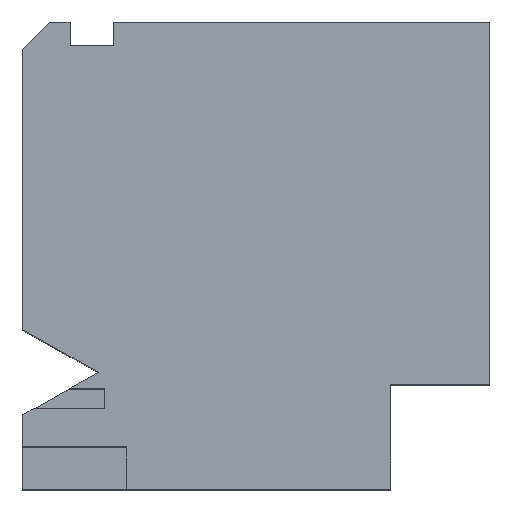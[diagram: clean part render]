
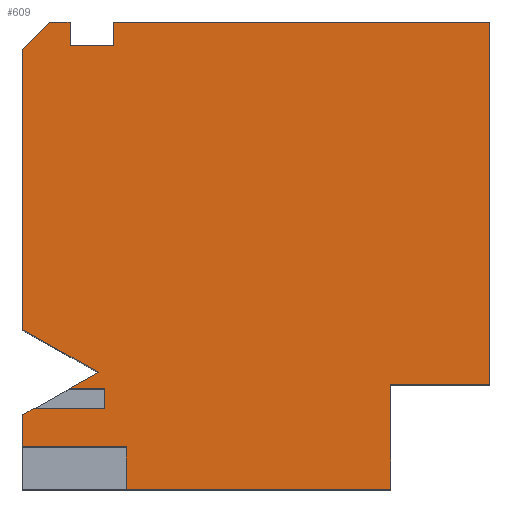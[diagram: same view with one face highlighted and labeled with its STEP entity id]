
A CAD part, top view. The second image highlights one B-rep face of the part: STEP entity #609.
In plain terms, the highlighted planar face has unit normal (0, 0, 1).
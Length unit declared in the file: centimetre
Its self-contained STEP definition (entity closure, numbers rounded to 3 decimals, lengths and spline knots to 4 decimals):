
#1 = EDGE_CURVE ( 'NONE', #614, #55, #923, .T. ) ;
#3 = DIRECTION ( 'NONE',  ( 0., 1., 0. ) ) ;
#9 = EDGE_CURVE ( 'NONE', #55, #213, #548, .T. ) ;
#12 = VECTOR ( 'NONE', #194, 100. ) ;
#15 = VECTOR ( 'NONE', #170, 100. ) ;
#30 = ORIENTED_EDGE ( 'NONE', *, *, #188, .F. ) ;
#37 = CARTESIAN_POINT ( 'NONE',  ( 99.8926, 215.2082, 1000. ) ) ;
#43 = DIRECTION ( 'NONE',  ( -1., 0., 0. ) ) ;
#52 = DIRECTION ( 'NONE',  ( -1., 0., 0. ) ) ;
#55 = VERTEX_POINT ( 'NONE', #645 ) ;
#68 = VERTEX_POINT ( 'NONE', #500 ) ;
#69 = ORIENTED_EDGE ( 'NONE', *, *, #750, .F. ) ;
#70 = CARTESIAN_POINT ( 'NONE',  ( 0., 172.1387, 1000. ) ) ;
#73 = VERTEX_POINT ( 'NONE', #810 ) ;
#75 = VECTOR ( 'NONE', #933, 100. ) ;
#77 = CARTESIAN_POINT ( 'NONE',  ( 788.0103, 224.0771, 1000. ) ) ;
#84 = DIRECTION ( 'NONE',  ( 1., 0., 0. ) ) ;
#85 = CARTESIAN_POINT ( 'NONE',  ( 0., 341.7609, 1000. ) ) ;
#89 = DIRECTION ( 'NONE',  ( 1., 0., 0. ) ) ;
#96 = EDGE_CURVE ( 'NONE', #714, #68, #576, .T. ) ;
#117 = DIRECTION ( 'NONE',  ( 0.872, 0.49, 0. ) ) ;
#122 = CARTESIAN_POINT ( 'NONE',  ( 788.0103, 0., 1000. ) ) ;
#136 = CARTESIAN_POINT ( 'NONE',  ( 176.0399, 172.1387, 1000. ) ) ;
#137 = ORIENTED_EDGE ( 'NONE', *, *, #939, .T. ) ;
#144 = VERTEX_POINT ( 'NONE', #122 ) ;
#151 = VERTEX_POINT ( 'NONE', #77 ) ;
#157 = VECTOR ( 'NONE', #980, 100. ) ;
#158 = ORIENTED_EDGE ( 'NONE', *, *, #263, .F. ) ;
#166 = CARTESIAN_POINT ( 'NONE',  ( 101.937, 950.76, 1000. ) ) ;
#167 = VECTOR ( 'NONE', #117, 100. ) ;
#170 = DIRECTION ( 'NONE',  ( 0.872, 0.49, 0. ) ) ;
#188 = EDGE_CURVE ( 'NONE', #73, #836, #916, .T. ) ;
#194 = DIRECTION ( 'NONE',  ( 0., -1., 0. ) ) ;
#196 = VECTOR ( 'NONE', #206, 100. ) ;
#206 = DIRECTION ( 'NONE',  ( -0.872, 0.49, 0. ) ) ;
#207 = CARTESIAN_POINT ( 'NONE',  ( 194.1209, 950.76, 1000. ) ) ;
#213 = VERTEX_POINT ( 'NONE', #459 ) ;
#225 = VERTEX_POINT ( 'NONE', #446 ) ;
#226 = VERTEX_POINT ( 'NONE', #317 ) ;
#233 = VECTOR ( 'NONE', #248, 100. ) ;
#234 = LINE ( 'NONE', #334, #75 ) ;
#241 = CARTESIAN_POINT ( 'NONE',  ( 222.7373, 0., 1000. ) ) ;
#242 = LINE ( 'NONE', #862, #15 ) ;
#248 = DIRECTION ( 'NONE',  ( -1., 0., 0. ) ) ;
#263 = EDGE_CURVE ( 'NONE', #572, #861, #533, .T. ) ;
#264 = VERTEX_POINT ( 'NONE', #840 ) ;
#267 = CARTESIAN_POINT ( 'NONE',  ( 222.7373, 0., 1000. ) ) ;
#279 = LINE ( 'NONE', #876, #551 ) ;
#283 = EDGE_CURVE ( 'NONE', #323, #226, #611, .T. ) ;
#290 = CARTESIAN_POINT ( 'NONE',  ( 162.4883, 250.4024, 1000. ) ) ;
#303 = VECTOR ( 'NONE', #454, 100. ) ;
#309 = VERTEX_POINT ( 'NONE', #85 ) ;
#310 = EDGE_CURVE ( 'NONE', #766, #264, #242, .T. ) ;
#317 = CARTESIAN_POINT ( 'NONE',  ( 0., 941.4145, 1000. ) ) ;
#318 = EDGE_CURVE ( 'NONE', #861, #489, #412, .T. ) ;
#323 = VERTEX_POINT ( 'NONE', #337 ) ;
#326 = VERTEX_POINT ( 'NONE', #782 ) ;
#327 = EDGE_CURVE ( 'NONE', #614, #144, #775, .T. ) ;
#334 = CARTESIAN_POINT ( 'NONE',  ( 0., 1000., 1000. ) ) ;
#337 = CARTESIAN_POINT ( 'NONE',  ( 58.5855, 1000., 1000. ) ) ;
#341 = CARTESIAN_POINT ( 'NONE',  ( 101.937, 1000., 1000. ) ) ;
#352 = LINE ( 'NONE', #657, #630 ) ;
#362 = DIRECTION ( 'NONE',  ( 0., 1., 0. ) ) ;
#366 = CARTESIAN_POINT ( 'NONE',  ( 176.0399, 215.2082, 1000. ) ) ;
#373 = ORIENTED_EDGE ( 'NONE', *, *, #9, .F. ) ;
#385 = ORIENTED_EDGE ( 'NONE', *, *, #283, .T. ) ;
#412 = LINE ( 'NONE', #166, #569 ) ;
#416 = ORIENTED_EDGE ( 'NONE', *, *, #310, .F. ) ;
#422 = CARTESIAN_POINT ( 'NONE',  ( 0., 1000., 1000. ) ) ;
#431 = VECTOR ( 'NONE', #925, 100. ) ;
#437 = LINE ( 'NONE', #733, #431 ) ;
#446 = CARTESIAN_POINT ( 'NONE',  ( 1000., 224.0771, 1000. ) ) ;
#454 = DIRECTION ( 'NONE',  ( -0.707, -0.707, 0. ) ) ;
#459 = CARTESIAN_POINT ( 'NONE',  ( 0., 90.4326, 1000. ) ) ;
#476 = AXIS2_PLACEMENT_3D ( 'NONE', #808, #948, #791 ) ;
#479 = VECTOR ( 'NONE', #3, 100. ) ;
#482 = DIRECTION ( 'NONE',  ( 0., 1., 0. ) ) ;
#485 = EDGE_CURVE ( 'NONE', #151, #144, #279, .T. ) ;
#489 = VERTEX_POINT ( 'NONE', #207 ) ;
#494 = CARTESIAN_POINT ( 'NONE',  ( 0., 159.044, 1000. ) ) ;
#495 = DIRECTION ( 'NONE',  ( 0., -1., 0. ) ) ;
#500 = CARTESIAN_POINT ( 'NONE',  ( 194.1209, 1000., 1000. ) ) ;
#501 = LINE ( 'NONE', #494, #167 ) ;
#503 = CARTESIAN_POINT ( 'NONE',  ( 0., 159.044, 1000. ) ) ;
#520 = ORIENTED_EDGE ( 'NONE', *, *, #96, .T. ) ;
#521 = EDGE_CURVE ( 'NONE', #225, #714, #437, .T. ) ;
#532 = LINE ( 'NONE', #70, #707 ) ;
#533 = LINE ( 'NONE', #898, #157 ) ;
#543 = VECTOR ( 'NONE', #839, 100. ) ;
#548 = LINE ( 'NONE', #625, #233 ) ;
#551 = VECTOR ( 'NONE', #495, 100. ) ;
#559 = EDGE_CURVE ( 'NONE', #572, #323, #234, .T. ) ;
#565 = VECTOR ( 'NONE', #43, 100. ) ;
#569 = VECTOR ( 'NONE', #929, 100. ) ;
#572 = VERTEX_POINT ( 'NONE', #341 ) ;
#576 = LINE ( 'NONE', #957, #666 ) ;
#577 = CARTESIAN_POINT ( 'NONE',  ( 1000., 1000., 1000. ) ) ;
#589 = LINE ( 'NONE', #422, #12 ) ;
#590 = DIRECTION ( 'NONE',  ( -1., 0., 0. ) ) ;
#595 = ORIENTED_EDGE ( 'NONE', *, *, #327, .T. ) ;
#602 = ORIENTED_EDGE ( 'NONE', *, *, #784, .F. ) ;
#605 = CARTESIAN_POINT ( 'NONE',  ( 0., 1000., 1000. ) ) ;
#607 = VERTEX_POINT ( 'NONE', #503 ) ;
#608 = ORIENTED_EDGE ( 'NONE', *, *, #864, .F. ) ;
#609 = ADVANCED_FACE ( 'NONE', ( #718 ), #877, .T. ) ;
#611 = LINE ( 'NONE', #845, #303 ) ;
#614 = VERTEX_POINT ( 'NONE', #267 ) ;
#618 = ORIENTED_EDGE ( 'NONE', *, *, #485, .F. ) ;
#625 = CARTESIAN_POINT ( 'NONE',  ( 0., 90.4326, 1000. ) ) ;
#626 = EDGE_CURVE ( 'NONE', #836, #766, #644, .T. ) ;
#630 = VECTOR ( 'NONE', #362, 100. ) ;
#644 = LINE ( 'NONE', #936, #565 ) ;
#645 = CARTESIAN_POINT ( 'NONE',  ( 222.7373, 90.4326, 1000. ) ) ;
#649 = ORIENTED_EDGE ( 'NONE', *, *, #521, .T. ) ;
#657 = CARTESIAN_POINT ( 'NONE',  ( 194.1209, 950.76, 1000. ) ) ;
#661 = EDGE_CURVE ( 'NONE', #225, #151, #735, .T. ) ;
#666 = VECTOR ( 'NONE', #590, 100. ) ;
#707 = VECTOR ( 'NONE', #84, 100. ) ;
#714 = VERTEX_POINT ( 'NONE', #577 ) ;
#715 = CARTESIAN_POINT ( 'NONE',  ( 788.0103, 224.0771, 1000. ) ) ;
#718 = FACE_OUTER_BOUND ( 'NONE', #911, .T. ) ;
#733 = CARTESIAN_POINT ( 'NONE',  ( 1000., 1000., 1000. ) ) ;
#735 = LINE ( 'NONE', #715, #930 ) ;
#740 = EDGE_CURVE ( 'NONE', #607, #326, #501, .T. ) ;
#742 = CARTESIAN_POINT ( 'NONE',  ( 101.937, 950.76, 1000. ) ) ;
#750 = EDGE_CURVE ( 'NONE', #489, #68, #352, .T. ) ;
#758 = ORIENTED_EDGE ( 'NONE', *, *, #559, .T. ) ;
#766 = VERTEX_POINT ( 'NONE', #37 ) ;
#775 = LINE ( 'NONE', #850, #832 ) ;
#782 = CARTESIAN_POINT ( 'NONE',  ( 23.2901, 172.1387, 1000. ) ) ;
#784 = EDGE_CURVE ( 'NONE', #264, #309, #976, .T. ) ;
#791 = DIRECTION ( 'NONE',  ( 1., 0., 0. ) ) ;
#808 = CARTESIAN_POINT ( 'NONE',  ( 0., 0., 1000. ) ) ;
#809 = VECTOR ( 'NONE', #482, 100. ) ;
#810 = CARTESIAN_POINT ( 'NONE',  ( 176.0399, 172.1387, 1000. ) ) ;
#832 = VECTOR ( 'NONE', #89, 100. ) ;
#836 = VERTEX_POINT ( 'NONE', #366 ) ;
#839 = DIRECTION ( 'NONE',  ( 0., -1., 0. ) ) ;
#840 = CARTESIAN_POINT ( 'NONE',  ( 162.4883, 250.4024, 1000. ) ) ;
#843 = ORIENTED_EDGE ( 'NONE', *, *, #849, .T. ) ;
#845 = CARTESIAN_POINT ( 'NONE',  ( -470.7073, 470.7073, 1000. ) ) ;
#849 = EDGE_CURVE ( 'NONE', #607, #213, #589, .T. ) ;
#850 = CARTESIAN_POINT ( 'NONE',  ( 0., 0., 1000. ) ) ;
#861 = VERTEX_POINT ( 'NONE', #742 ) ;
#862 = CARTESIAN_POINT ( 'NONE',  ( 0., 159.044, 1000. ) ) ;
#864 = EDGE_CURVE ( 'NONE', #326, #73, #532, .T. ) ;
#876 = CARTESIAN_POINT ( 'NONE',  ( 788.0103, 0., 1000. ) ) ;
#877 = PLANE ( 'NONE',  #476 ) ;
#898 = CARTESIAN_POINT ( 'NONE',  ( 101.937, 950.76, 1000. ) ) ;
#906 = ORIENTED_EDGE ( 'NONE', *, *, #626, .F. ) ;
#910 = ORIENTED_EDGE ( 'NONE', *, *, #661, .F. ) ;
#911 = EDGE_LOOP ( 'NONE', ( #158, #758, #385, #137, #602, #416, #906, #30, #608, #938, #843, #373, #995, #595, #618, #910, #649, #520, #69, #984 ) ) ;
#916 = LINE ( 'NONE', #136, #479 ) ;
#923 = LINE ( 'NONE', #241, #809 ) ;
#925 = DIRECTION ( 'NONE',  ( 0., 1., 0. ) ) ;
#929 = DIRECTION ( 'NONE',  ( 1., 0., 0. ) ) ;
#930 = VECTOR ( 'NONE', #52, 100. ) ;
#933 = DIRECTION ( 'NONE',  ( -1., 0., 0. ) ) ;
#936 = CARTESIAN_POINT ( 'NONE',  ( 0., 215.2082, 1000. ) ) ;
#938 = ORIENTED_EDGE ( 'NONE', *, *, #740, .F. ) ;
#939 = EDGE_CURVE ( 'NONE', #226, #309, #991, .T. ) ;
#948 = DIRECTION ( 'NONE',  ( 0., 0., 1. ) ) ;
#957 = CARTESIAN_POINT ( 'NONE',  ( 0., 1000., 1000. ) ) ;
#976 = LINE ( 'NONE', #290, #196 ) ;
#980 = DIRECTION ( 'NONE',  ( 0., -1., 0. ) ) ;
#984 = ORIENTED_EDGE ( 'NONE', *, *, #318, .F. ) ;
#991 = LINE ( 'NONE', #605, #543 ) ;
#995 = ORIENTED_EDGE ( 'NONE', *, *, #1, .F. ) ;
